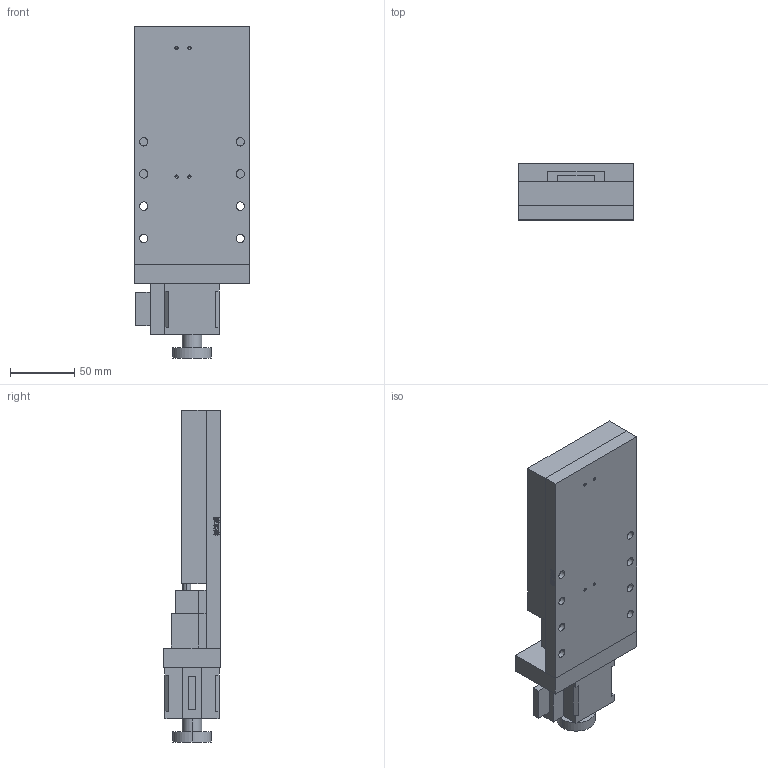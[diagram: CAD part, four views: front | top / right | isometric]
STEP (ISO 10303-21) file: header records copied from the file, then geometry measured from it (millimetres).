
FILE_DESCRIPTION (( 'STEP AP203' ), '1' );
FILE_NAME ('PP110-75.STEP', '2022-08-21T09:30:17', ( '' ), ( '' ), 'SwSTEP 2.0', 'SolidWorks 2020', '' );
FILE_SCHEMA (( 'CONFIG_CONTROL_DESIGN' ));
Length unit declared in the file: millimetre
Products named in the file (7): 錨璃9^PP110-75; 錨璃7^PP110-75; 錨璃5^PP110-75; PP110-75; 錨璃8^PP110-75; 錨璃4^PP110-75; 錨璃6^PP110-75
Assembly tree (6 placements, depth 2):
  PP110-75
    錨璃4^PP110-75
    錨璃5^PP110-75
    錨璃6^PP110-75
    錨璃7^PP110-75
    錨璃8^PP110-75
    錨璃9^PP110-75
Bounding box: 90 x 44 x 258 mm (x, y, z)
Volume: 594923.8 mm3; surface area: 119140 mm2
Topology: 6 solids, 6 shells, 437 faces, 1121 edges, 689 vertices
Faces by surface type: plane 183, cylinder 108, bspline 76, cone 70
Entity records: 16534 total; most frequent: CARTESIAN_POINT 5878, ORIENTED_EDGE 2102, DIRECTION 1855, EDGE_CURVE 1051, VERTEX_POINT 689, VECTOR 683, LINE 683, AXIS2_PLACEMENT_3D 586
